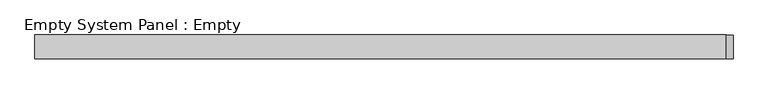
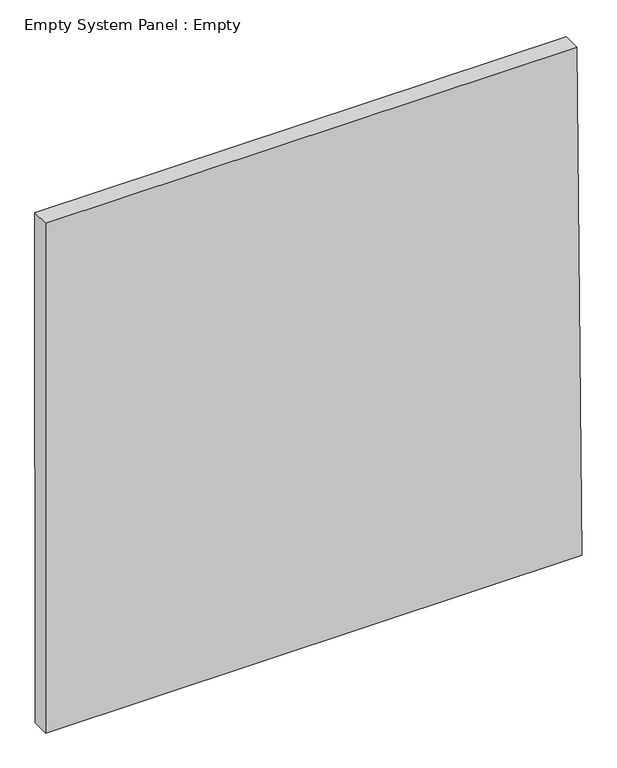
"""IFC4 building model written with IfcOpenShell, lengths in millimetres: plate geometry, Empty System Panel : Empty."""

from ifc_helpers import new_model, si_unit, frame, origin, place, context, project, spatial, polyline, outline, extrude, source, transform, mapped, element, save


def empty_system_panel_empty_9f1aaa04(model_context):
    return source(origin(), model_context, "Body", "SweptSolid", [
        extrude(outline(polyline([(0.0, -1483.5476004), (0.0, 1484.3340859), (2981.3894581, 1456.0449829), (2980.8397479, -1484.3340859), (0.0, -1483.5476004)])), frame((0.0, -50.8, 0.0), z_axis=(0.0, 1.0, 0.0), x_axis=(0.0, 0.0, 1.0)), (0.0, 0.0, 1.0), 101.6),
    ])


if __name__ == "__main__":
    model = new_model("IFC4")
    model_context = context("Model", 3, world=origin())
    ifc_project = project(units=[si_unit("LENGTHUNIT", "METRE", prefix="MILLI")], contexts=[model_context])
    site = spatial("IfcSite", under=ifc_project)
    building = spatial("IfcBuilding", under=site)
    placement = place(None, origin())
    empty_system_panel_empty_shape = empty_system_panel_empty_9f1aaa04(model_context)
    element("IfcPlate", 1, ObjectType="Empty System Panel : Empty", at=placement, inside=building, context=model_context, shape_type="MappedRepresentation", body=[
        mapped(empty_system_panel_empty_shape, transform((0.0, 0.0, 0.0), x_axis=(1.0, 0.0, 0.0), y_axis=(0.0, 1.0, 0.0), z_axis=(0.0, 0.0, 1.0))),
    ])
    save(model, "model.ifc")
